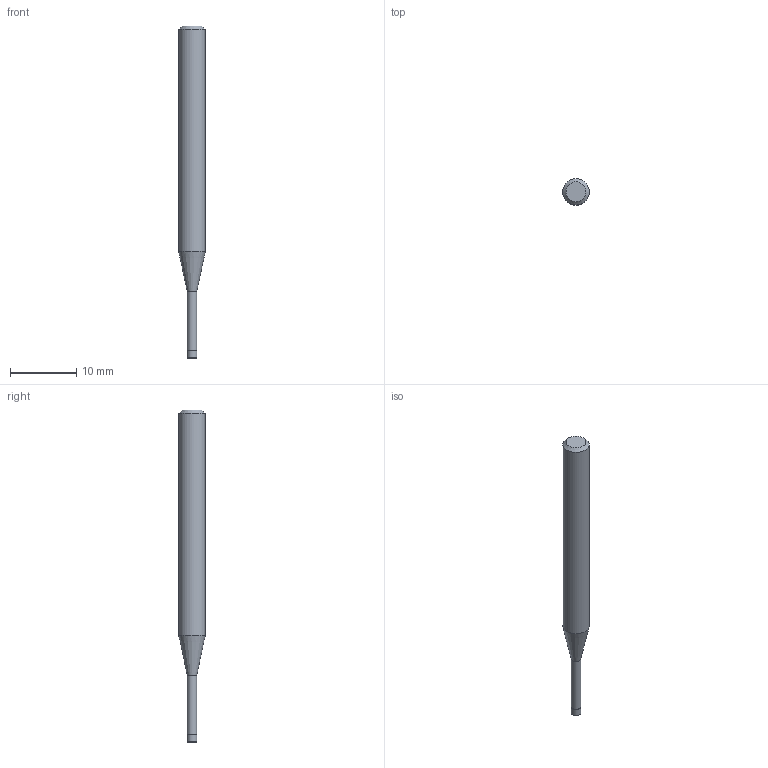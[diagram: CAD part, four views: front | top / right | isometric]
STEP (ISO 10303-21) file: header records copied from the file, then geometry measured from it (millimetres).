
FILE_DESCRIPTION((''),'2;1');
FILE_NAME('C:\Users\nsx150\AppData\Local\Temp\Mastercam 2021\CSMVKW3037\TEMP.step','2023-06-23T16:03:14',(''),(''),'STEP Write','Mastercam 2021 ... CNC Software, Inc.','');
FILE_SCHEMA(('AUTOMOTIVE_DESIGN'));
Length unit declared in the file: millimetre
Products named in the file (1): None
Bounding box: 4 x 4 x 50 mm (x, y, z)
Volume: 479.1 mm3; surface area: 538.3 mm2
Topology: 2 solids, 2 shells, 10 faces, 14 edges, 8 vertices
Faces by surface type: plane 4, cylinder 3, cone 2, torus 1
Full cylindrical faces by diameter (mm): 1.43 x1, 1.5 x1, 4 x1
Entity records: 232 total; most frequent: DIRECTION 40, CARTESIAN_POINT 28, AXIS2_PLACEMENT_3D 20, ORIENTED_EDGE 16, EDGE_LOOP 16, STYLED_ITEM 13, ADVANCED_FACE 10, FACE_BOUND 10
